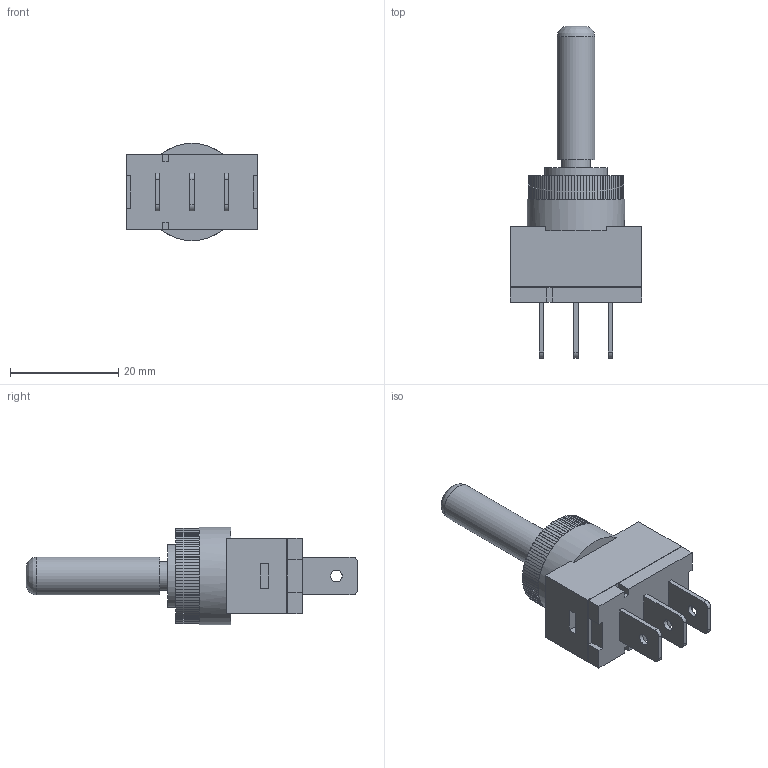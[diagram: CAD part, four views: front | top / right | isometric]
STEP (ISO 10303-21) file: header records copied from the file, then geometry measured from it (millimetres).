
FILE_DESCRIPTION(/* description */ (''),/* implementation_level */ '2;1');
FILE_NAME(/* name */ 'TE4-1A-DC-1-RL.stp',/* time_stamp */ '2025-03-03T12:59:22-08:00',/* author */ ('tylerl'),/* organization */ (''),/* preprocessor_version */ 'ST-DEVELOPER v20',/* originating_system */ 'Autodesk Inventor 2025',/* authorisation */ '');
FILE_SCHEMA (('AUTOMOTIVE_DESIGN { 1 0 10303 214 3 1 1 }'));
Length unit declared in the file: millimetre
Products named in the file (1): Base
Bounding box: 24.4 x 61.45 x 18 mm (x, y, z)
Volume: 8364.1 mm3; surface area: 3815.8 mm2
Topology: 1 solids, 1 shells, 390 faces, 1076 edges, 648 vertices
Faces by surface type: plane 375, cylinder 14, bspline 1
Full cylindrical faces by diameter (mm): 2.15 x3, 5.35 x1, 7 x1, 17.5 x1, 18 x1
Entity records: 12188 total; most frequent: ORIENTED_EDGE 2152, CARTESIAN_POINT 2141, DIRECTION 1991, EDGE_CURVE 1076, LINE 941, VECTOR 941, VERTEX_POINT 648, AXIS2_PLACEMENT_3D 525
